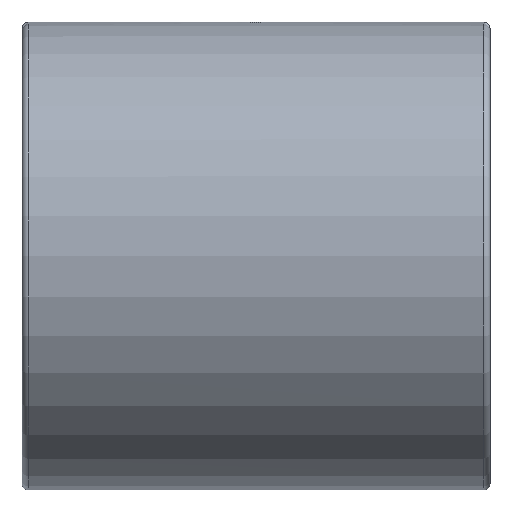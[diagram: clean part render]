
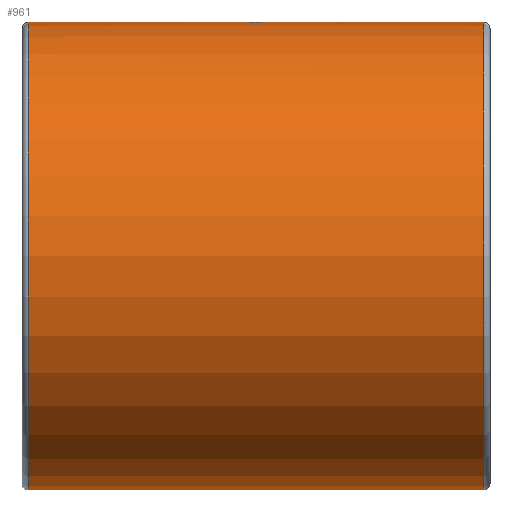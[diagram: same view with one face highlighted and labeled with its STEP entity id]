
A CAD part, top view. The second image highlights one B-rep face of the part: STEP entity #961.
In plain terms, the highlighted cylindrical face has radius 9.525 mm (diameter 19.05 mm), a partial arc.
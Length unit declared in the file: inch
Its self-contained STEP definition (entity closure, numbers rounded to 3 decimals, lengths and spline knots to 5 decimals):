
#137=DIRECTION('',(1.,0.,0.));
#138=VECTOR('',#137,0.34156);
#139=CARTESIAN_POINT('',(0.01,0.375,0.));
#140=LINE('',#139,#138);
#141=DIRECTION('',(-1.,0.,0.));
#142=VECTOR('',#141,0.73);
#143=CARTESIAN_POINT('',(0.74,-0.375,0.));
#144=LINE('',#143,#142);
#145=DIRECTION('',(1.,0.,0.));
#146=VECTOR('',#145,0.34156);
#147=CARTESIAN_POINT('',(0.39844,0.375,0.));
#148=LINE('',#147,#146);
#164=CARTESIAN_POINT('',(0.39844,0.375,0.));
#165=CARTESIAN_POINT('',(0.39844,0.375,0.0022));
#166=CARTESIAN_POINT('',(0.39781,0.37496,
0.00642));
#167=CARTESIAN_POINT('',(0.39505,0.37481,
0.01239));
#168=CARTESIAN_POINT('',(0.39066,0.37461,
0.01737));
#169=CARTESIAN_POINT('',(0.38495,0.37442,
0.02098));
#170=CARTESIAN_POINT('',(0.37842,0.3743,
0.02287));
#171=CARTESIAN_POINT('',(0.37159,0.3743,
0.02287));
#172=CARTESIAN_POINT('',(0.36505,0.37442,
0.02098));
#173=CARTESIAN_POINT('',(0.35935,0.37461,
0.01737));
#174=CARTESIAN_POINT('',(0.35495,0.37481,
0.01239));
#175=CARTESIAN_POINT('',(0.35219,0.37496,
0.00642));
#176=CARTESIAN_POINT('',(0.35156,0.375,0.0022));
#177=CARTESIAN_POINT('',(0.35156,0.375,0.));
#184=CARTESIAN_POINT('',(0.01,0.,0.));
#185=DIRECTION('',(-1.,0.,0.));
#186=DIRECTION('',(0.,1.,0.008));
#187=AXIS2_PLACEMENT_3D('',#184,#185,#186);
#189=CARTESIAN_POINT('',(0.01,0.,0.));
#190=DIRECTION('',(-1.,0.,0.));
#191=DIRECTION('',(0.,-1.,0.));
#192=AXIS2_PLACEMENT_3D('',#189,#190,#191);
#327=CARTESIAN_POINT('',(0.74,0.,0.));
#328=DIRECTION('',(1.,0.,0.));
#329=DIRECTION('',(0.,1.,0.005));
#330=AXIS2_PLACEMENT_3D('',#327,#328,#329);
#332=CARTESIAN_POINT('',(0.74,0.,0.));
#333=DIRECTION('',(1.,0.,0.));
#334=DIRECTION('',(0.,1.,0.));
#335=AXIS2_PLACEMENT_3D('',#332,#333,#334);
#592=CARTESIAN_POINT('',(0.01,-0.375,0.));
#593=VERTEX_POINT('',#592);
#599=CARTESIAN_POINT('',(0.74,-0.375,0.));
#600=VERTEX_POINT('',#599);
#601=CARTESIAN_POINT('',(0.01,0.37499,0.00284));
#602=CARTESIAN_POINT('',(0.01,0.375,0.));
#603=VERTEX_POINT('',#601);
#604=VERTEX_POINT('',#602);
#610=CARTESIAN_POINT('',(0.35156,0.375,0.));
#612=VERTEX_POINT('',#610);
#613=CARTESIAN_POINT('',(0.74,0.375,0.));
#614=CARTESIAN_POINT('',(0.74,0.375,0.00192));
#615=VERTEX_POINT('',#613);
#616=VERTEX_POINT('',#614);
#623=VERTEX_POINT('',#164);
#942=CARTESIAN_POINT('',(-0.0375,0.,0.));
#943=DIRECTION('',(1.,0.,0.));
#944=DIRECTION('',(0.,-1.,0.));
#945=AXIS2_PLACEMENT_3D('',#942,#943,#944);
#946=CYLINDRICAL_SURFACE('',#945,0.375);
#947=ORIENTED_EDGE('',*,*,#923,.T.);
#949=ORIENTED_EDGE('',*,*,#948,.T.);
#951=ORIENTED_EDGE('',*,*,#950,.T.);
#952=ORIENTED_EDGE('',*,*,#917,.T.);
#953=ORIENTED_EDGE('',*,*,#879,.F.);
#954=ORIENTED_EDGE('',*,*,#929,.T.);
#956=ORIENTED_EDGE('',*,*,#955,.T.);
#958=ORIENTED_EDGE('',*,*,#957,.T.);
#959=EDGE_LOOP('',(#947,#949,#951,#952,#953,#954,#956,#958));
#960=FACE_OUTER_BOUND('',#959,.F.);
#178=B_SPLINE_CURVE_WITH_KNOTS('',3,(#164,#165,#166,#167,#168,#169,#170,#171,
#172,#173,#174,#175,#176,#177),.UNSPECIFIED.,.F.,.F.,(4,1,1,1,1,1,1,1,1,1,1,4),(
0.,0.09091,0.18182,0.27273,0.36364,
0.45455,0.54545,0.63636,0.72727,
0.81818,0.90909,1.),.UNSPECIFIED.);
#188=CIRCLE('',#187,0.375);
#193=CIRCLE('',#192,0.375);
#331=CIRCLE('',#330,0.375);
#336=CIRCLE('',#335,0.375);
#879=EDGE_CURVE('',#623,#612,#178,.T.);
#917=EDGE_CURVE('',#604,#612,#140,.T.);
#923=EDGE_CURVE('',#600,#593,#144,.T.);
#929=EDGE_CURVE('',#623,#615,#148,.T.);
#948=EDGE_CURVE('',#593,#603,#193,.T.);
#950=EDGE_CURVE('',#603,#604,#188,.T.);
#955=EDGE_CURVE('',#615,#616,#336,.T.);
#957=EDGE_CURVE('',#616,#600,#331,.T.);
#961=ADVANCED_FACE('',(#960),#946,.T.);
